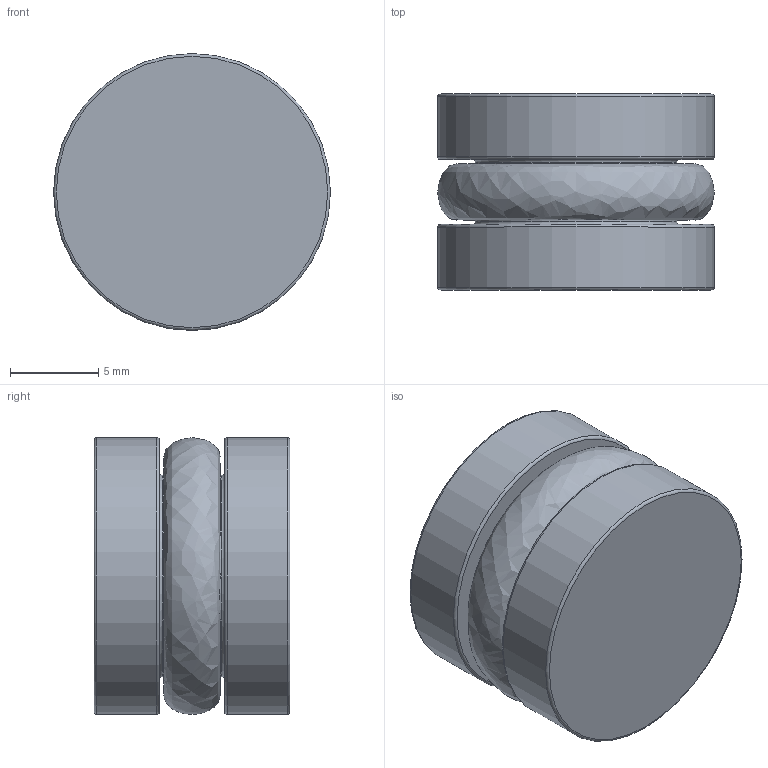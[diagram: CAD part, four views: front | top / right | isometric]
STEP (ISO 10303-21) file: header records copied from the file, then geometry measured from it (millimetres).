
FILE_DESCRIPTION(/* description */ (''),/* implementation_level */ '2;1');
FILE_NAME(/* name */ 'C:/Users/drich/Desktop/OR-625 v2.step',/* time_stamp */ '2019-12-29T16:46:17-06:00',/* author */ (''),/* organization */ (''),/* preprocessor_version */ 'ST-DEVELOPER v18',/* originating_system */ 'Autodesk Translation Framework v8.12.0.6',/* authorisation */ '');
FILE_SCHEMA (('AUTOMOTIVE_DESIGN { 1 0 10303 214 3 1 1 }'));
Length unit declared in the file: inch
Products named in the file (1): OR-625
Bounding box: 15.67 x 11.1 x 15.67 mm (x, y, z)
Volume: 1914.1 mm3; surface area: 1485.2 mm2
Topology: 2 solids, 2 shells, 17 faces, 45 edges, 32 vertices
Faces by surface type: torus 6, cylinder 4, plane 4, cone 2, bspline 1
Full cylindrical faces by diameter (mm): 5.118 x1, 11.405 x1, 15.672 x2
Entity records: 681 total; most frequent: CARTESIAN_POINT 174, DIRECTION 116, ORIENTED_EDGE 88, AXIS2_PLACEMENT_3D 55, EDGE_CURVE 44, CIRCLE 37, VERTEX_POINT 32, EDGE_LOOP 20
